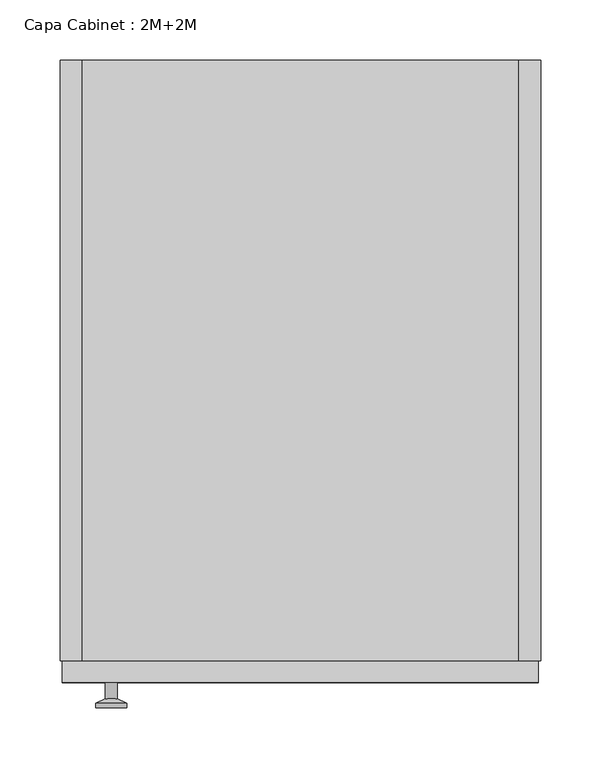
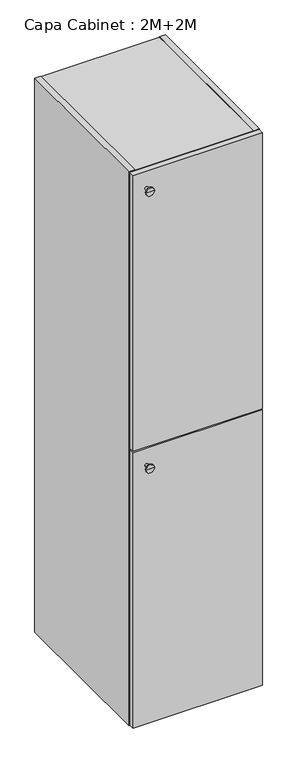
"""IFC4 building model written with IfcOpenShell, lengths in millimetres: furniture geometry, Capa Cabinet : 2M+2M."""

from ifc_helpers import new_model, si_unit, frame, origin, place, context, project, spatial, polyline, circle_curve, outline, extrude, faceted_brep, source, transform, mapped, element, save
from ifc_brep_helpers import plane_surface, cylinder_surface, revolved_surface, advanced_brep


def capa_cabinet_2m_2m_ed58e4cf(model_context):
    return source(origin(), model_context, "Body", "SolidModel", [
        extrude(outline(polyline([(182.0, 0.0), (-182.0, 0.0), (-182.0, 490.0), (182.0, 490.0), (182.0, 0.0)])), frame((0.0, 0.0, 1337.0), z_axis=(0.0, 0.0, 1.0), x_axis=(1.0, 0.0, 0.0)), (0.0, 0.0, 1.0), 14.0),
        extrude(outline(polyline([(182.0, 0.0), (-182.0, 0.0), (-182.0, 490.0), (182.0, 490.0), (182.0, 0.0)])), frame((0.0, 0.0, 889.0), z_axis=(0.0, 0.0, 1.0), x_axis=(1.0, 0.0, 0.0)), (0.0, 0.0, 1.0), 14.0),
        extrude(outline(polyline([(182.0, 0.0), (-182.0, 0.0), (-182.0, 490.0), (182.0, 490.0), (182.0, 0.0)])), frame((0.0, 0.0, 441.0), z_axis=(0.0, 0.0, 1.0), x_axis=(1.0, 0.0, 0.0)), (0.0, 0.0, 1.0), 14.0),
        faceted_brep([(-182.0, 500.0, 1792.0), (-182.0, 500.0, 1791.0), (182.0, 500.0, 1791.0), (182.0, 500.0, 1792.0), (200.0, 500.0, 1792.0), (200.0, 500.0, 0.0), (182.0, 500.0, 0.0), (182.0, 500.0, 1.0), (-182.0, 500.0, 1.0), (-182.0, 500.0, 0.0), (-200.0, 500.0, 0.0), (-200.0, 500.0, 1792.0), (182.0, 490.0, 19.0), (182.0, 490.0, 1773.0), (-182.0, 490.0, 1773.0), (-182.0, 490.0, 19.0), (-182.0, 0.0, 1792.0), (-200.0, 0.0, 1792.0), (-200.0, 0.0, 0.0), (-182.0, 0.0, 0.0), (-182.0, 0.0, 1.0), (182.0, 0.0, 1.0), (182.0, 0.0, 0.0), (200.0, 0.0, 0.0), (200.0, 0.0, 1792.0), (182.0, 0.0, 1792.0), (182.0, 0.0, 1791.0), (-182.0, 0.0, 1791.0), (182.0, 0.0, 1773.0), (182.0, 0.0, 19.0), (-182.0, 0.0, 19.0), (-182.0, 0.0, 1773.0)], [[[0, 1, 2, 3, 4, 5, 6, 7, 8, 9, 10, 11]], [[12, 13, 14, 15]], [[16, 17, 18, 19, 20, 21, 22, 23, 24, 25, 26, 27], [28, 29, 30, 31]], [[17, 16, 0, 11]], [[18, 17, 11, 10]], [[23, 22, 6, 5]], [[24, 23, 5, 4]], [[19, 18, 10, 9]], [[20, 19, 9, 8]], [[21, 20, 8, 7]], [[22, 21, 7, 6]], [[25, 24, 4, 3]], [[26, 25, 3, 2]], [[27, 26, 2, 1]], [[16, 27, 1, 0]], [[29, 28, 13, 12]], [[30, 29, 12, 15]], [[31, 30, 15, 14]], [[28, 31, 14, 13]]]),
        extrude(outline(polyline([(198.0, -18.0), (-198.0, -18.0), (-198.0, 0.0), (198.0, 0.0), (198.0, -18.0)])), frame((0.0, 0.0, 898.0), z_axis=(0.0, 0.0, 1.0), x_axis=(1.0, 0.0, 0.0)), (0.0, 0.0, 1.0), 892.0),
        advanced_brep(
        [(-157.2922597, -18.0, 1736.0), (-152.2922597, -18.0, 1736.0), (-162.2922597, -18.0, 1736.0), (-170.2922597, -38.997134, 1736.0), (-144.2922597, -38.997134, 1736.0), (-157.2922597, -38.997134, 1736.0), (-170.2922597, -35.5419417, 1736.0), (-144.2922597, -35.5419417, 1736.0), (-162.2922597, -31.8114804, 1736.0), (-152.2922597, -31.8114804, 1736.0)],
        [
            (0, 1),
            (1, 2, circle_curve(frame((-157.2922597, -18.0, 1736.0), z_axis=(0.0, 1.0, 0.0), x_axis=(1.0, 0.0, 0.0)), 5.0)),
            (2, 0),
            (2, 1, circle_curve(frame((-157.2922597, -18.0, 1736.0), z_axis=(0.0, 1.0, 0.0), x_axis=(1.0, 0.0, 0.0)), 5.0)),
            (3, 4, circle_curve(frame((-157.2922597, -38.997134, 1736.0), z_axis=(0.0, -1.0, 0.0), x_axis=(1.0, 0.0, 0.0)), 13.0)),
            (4, 5),
            (5, 3),
            (4, 3, circle_curve(frame((-157.2922597, -38.997134, 1736.0), z_axis=(0.0, -1.0, 0.0), x_axis=(1.0, 0.0, 0.0)), 13.0)),
            (6, 7, circle_curve(frame((-157.2922597, -35.5419417, 1736.0), z_axis=(0.0, -1.0, 0.0), x_axis=(1.0, 0.0, 0.0)), 13.0)),
            (7, 4),
            (3, 6),
            (7, 6, circle_curve(frame((-157.2922597, -35.5419417, 1736.0), z_axis=(0.0, -1.0, 0.0), x_axis=(1.0, 0.0, 0.0)), 13.0)),
            (8, 9, circle_curve(frame((-157.2922597, -31.8114804, 1736.0), z_axis=(0.0, -1.0, 0.0), x_axis=(1.0, 0.0, 0.0)), 5.0)),
            (9, 7),
            (6, 8),
            (9, 8, circle_curve(frame((-157.2922597, -31.8114804, 1736.0), z_axis=(0.0, -1.0, 0.0), x_axis=(1.0, 0.0, 0.0)), 5.0)),
            (1, 9),
            (8, 2),
        ],
        [
            plane_surface(frame((-157.2922597, -18.0, 1736.0), z_axis=(0.0, 1.0, 0.0), x_axis=(1.0, 0.0, 0.0))),
            plane_surface(frame((-157.2922597, -38.997134, 1736.0), z_axis=(0.0, -1.0, 0.0), x_axis=(1.0, 0.0, 0.0))),
            cylinder_surface(frame((-157.2922597, -38.997134, 1736.0), z_axis=(0.0, 1.0, 0.0), x_axis=(1.0, 0.0, 0.0)), 13.0),
            revolved_surface(polyline([(-144.2922597, -35.5419417, 1736.0), (-152.2922597, -31.8114804, 1736.0)]), (-157.2922597, -38.997134, 1736.0), (0.0, 1.0, 0.0)),
            cylinder_surface(frame((-157.2922597, -38.997134, 1736.0), z_axis=(0.0, 1.0, 0.0), x_axis=(1.0, 0.0, 0.0)), 5.0),
        ],
        [
            (0, [[1, 2, 3]]),
            (0, [[-3, 4, -1]]),
            (1, [[5, 6, 7]]),
            (1, [[8, -7, -6]]),
            (2, [[9, 10, -5, 11]]),
            (2, [[12, -11, -8, -10]]),
            (3, [[13, 14, -9, 15]]),
            (3, [[16, -15, -12, -14]]),
            (4, [[-2, 17, -13, 18]]),
            (4, [[-4, -18, -16, -17]]),
        ],
    ),
        extrude(outline(polyline([(198.0, -18.0), (-198.0, -18.0), (-198.0, 0.0), (198.0, 0.0), (198.0, -18.0)])), frame((0.0, 0.0, 2.0), z_axis=(0.0, 0.0, 1.0), x_axis=(1.0, 0.0, 0.0)), (0.0, 0.0, 1.0), 892.0),
        advanced_brep(
        [(-157.2922597, -18.0, 840.0), (-152.2922597, -18.0, 840.0), (-162.2922597, -18.0, 840.0), (-170.2922597, -38.997134, 840.0), (-144.2922597, -38.997134, 840.0), (-157.2922597, -38.997134, 840.0), (-170.2922597, -35.5419417, 840.0), (-144.2922597, -35.5419417, 840.0), (-162.2922597, -31.8114804, 840.0), (-152.2922597, -31.8114804, 840.0)],
        [
            (0, 1),
            (1, 2, circle_curve(frame((-157.2922597, -18.0, 840.0), z_axis=(0.0, 1.0, 0.0), x_axis=(1.0, 0.0, 0.0)), 5.0)),
            (2, 0),
            (2, 1, circle_curve(frame((-157.2922597, -18.0, 840.0), z_axis=(0.0, 1.0, 0.0), x_axis=(1.0, 0.0, 0.0)), 5.0)),
            (3, 4, circle_curve(frame((-157.2922597, -38.997134, 840.0), z_axis=(0.0, -1.0, 0.0), x_axis=(1.0, 0.0, 0.0)), 13.0)),
            (4, 5),
            (5, 3),
            (4, 3, circle_curve(frame((-157.2922597, -38.997134, 840.0), z_axis=(0.0, -1.0, 0.0), x_axis=(1.0, 0.0, 0.0)), 13.0)),
            (6, 7, circle_curve(frame((-157.2922597, -35.5419417, 840.0), z_axis=(0.0, -1.0, 0.0), x_axis=(1.0, 0.0, 0.0)), 13.0)),
            (7, 4),
            (3, 6),
            (7, 6, circle_curve(frame((-157.2922597, -35.5419417, 840.0), z_axis=(0.0, -1.0, 0.0), x_axis=(1.0, 0.0, 0.0)), 13.0)),
            (8, 9, circle_curve(frame((-157.2922597, -31.8114804, 840.0), z_axis=(0.0, -1.0, 0.0), x_axis=(1.0, 0.0, 0.0)), 5.0)),
            (9, 7),
            (6, 8),
            (9, 8, circle_curve(frame((-157.2922597, -31.8114804, 840.0), z_axis=(0.0, -1.0, 0.0), x_axis=(1.0, 0.0, 0.0)), 5.0)),
            (1, 9),
            (8, 2),
        ],
        [
            plane_surface(frame((-157.2922597, -18.0, 840.0), z_axis=(0.0, 1.0, 0.0), x_axis=(1.0, 0.0, 0.0))),
            plane_surface(frame((-157.2922597, -38.997134, 840.0), z_axis=(0.0, -1.0, 0.0), x_axis=(1.0, 0.0, 0.0))),
            cylinder_surface(frame((-157.2922597, -38.997134, 840.0), z_axis=(0.0, 1.0, 0.0), x_axis=(1.0, 0.0, 0.0)), 13.0),
            revolved_surface(polyline([(-144.2922597, -35.5419417, 840.0), (-152.2922597, -31.8114804, 840.0)]), (-157.2922597, -38.997134, 840.0), (0.0, 1.0, 0.0)),
            cylinder_surface(frame((-157.2922597, -38.997134, 840.0), z_axis=(0.0, 1.0, 0.0), x_axis=(1.0, 0.0, 0.0)), 5.0),
        ],
        [
            (0, [[1, 2, 3]]),
            (0, [[-3, 4, -1]]),
            (1, [[5, 6, 7]]),
            (1, [[8, -7, -6]]),
            (2, [[9, 10, -5, 11]]),
            (2, [[12, -11, -8, -10]]),
            (3, [[13, 14, -9, 15]]),
            (3, [[16, -15, -12, -14]]),
            (4, [[-2, 17, -13, 18]]),
            (4, [[-4, -18, -16, -17]]),
        ],
    ),
    ])


if __name__ == "__main__":
    model = new_model("IFC4")
    model_context = context("Model", 3, world=origin())
    ifc_project = project(units=[si_unit("LENGTHUNIT", "METRE", prefix="MILLI")], contexts=[model_context])
    site = spatial("IfcSite", under=ifc_project)
    building = spatial("IfcBuilding", under=site)
    placement = place(None, origin())
    capa_cabinet_2m_2m_shape = capa_cabinet_2m_2m_ed58e4cf(model_context)
    element("IfcFurniture", 1, ObjectType="Capa Cabinet : 2M+2M", at=placement, inside=building, context=model_context, shape_type="MappedRepresentation", body=[
        mapped(capa_cabinet_2m_2m_shape, transform((0.0, 0.0, 0.0), x_axis=(1.0, 0.0, 0.0), y_axis=(0.0, 1.0, 0.0), z_axis=(0.0, 0.0, 1.0))),
    ])
    save(model, "model.ifc")
